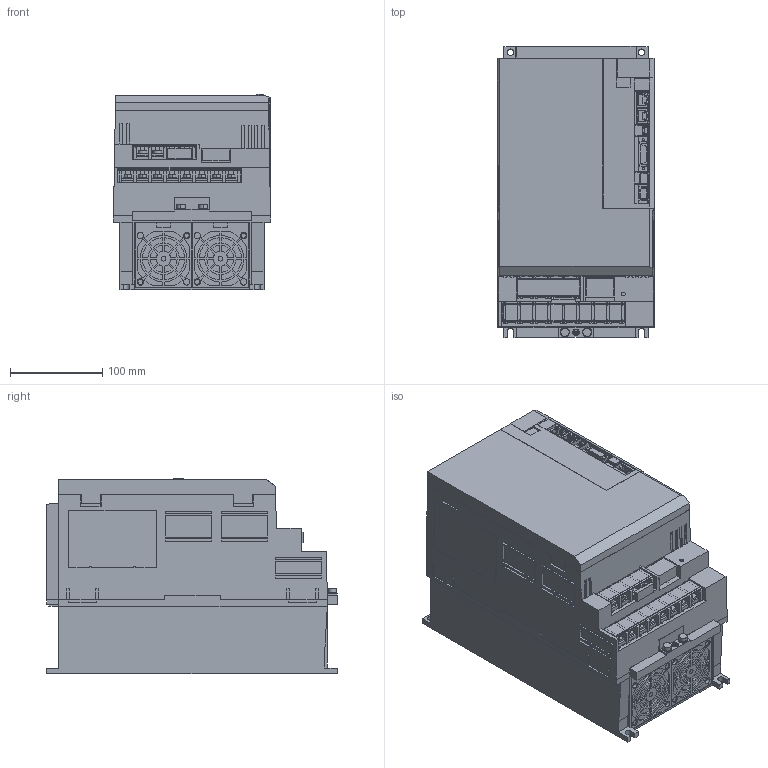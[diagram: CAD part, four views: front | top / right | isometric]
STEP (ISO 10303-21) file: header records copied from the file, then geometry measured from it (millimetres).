
FILE_DESCRIPTION((''),'2;1');
FILE_NAME('SGDXS-550A40A_ASM','2022-03-14T',('liubing_shen'),('Yaskawa Electric (Shenyang) Co.,Ltd'),'PRO/ENGINEER BY PARAMETRIC TECHNOLOGY CORPORATION, 2017170','PRO/ENGINEER BY PARAMETRIC TECHNOLOGY CORPORATION, 2017170','');
FILE_SCHEMA(('AUTOMOTIVE_DESIGN { 1 0 10303 214 1 1 1 1 }'));
Products named in the file (8): SGDXS-550A40A_BASE; SGDXS-550A40A_CONNECTOR; SGDXS-550A40A_COVER1; SGDXS-550A40A_COVER2; SGDXS-550A40A_COVER3; SGDXS-550A40A_COVER4; SGDXS-550A40A_COVER5; SGDXS-550A40A_ASM
Assembly tree (7 placements, depth 2):
  SGDXS-550A40A_ASM
    SGDXS-550A40A_BASE
    SGDXS-550A40A_CONNECTOR
    SGDXS-550A40A_COVER1
    SGDXS-550A40A_COVER2
    SGDXS-550A40A_COVER3
    SGDXS-550A40A_COVER4
    SGDXS-550A40A_COVER5
Bounding box: 170 x 315 x 211.55 mm (x, y, z)
Volume: 7274801.3 mm3; surface area: 891386.4 mm2
Topology: 6 solids, 8 shells, 3194 faces, 8870 edges, 5843 vertices
Faces by surface type: plane 2707, cylinder 475, cone 10, bspline 2
Entity records: 125871 total; most frequent: CARTESIAN_POINT 18311, ORIENTED_EDGE 17720, DIRECTION 16229, EDGE_CURVE 8870, VECTOR 7857, LINE 7857, VERTEX_POINT 5843, AXIS2_PLACEMENT_3D 4186
